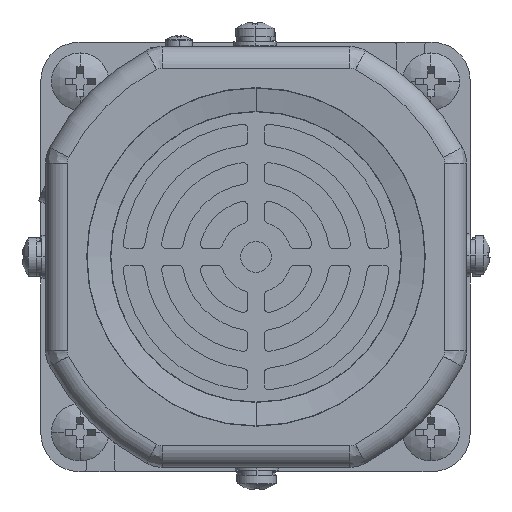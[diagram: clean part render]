
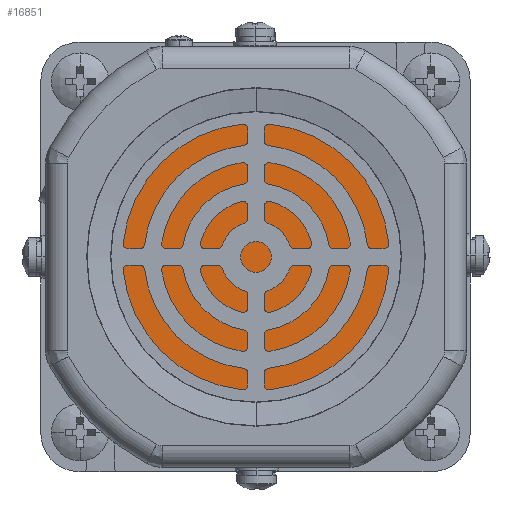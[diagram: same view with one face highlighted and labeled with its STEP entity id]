
A CAD part, left-side view. The second image highlights one B-rep face of the part: STEP entity #16851.
In plain terms, the highlighted planar face has unit normal (-1, 0, 0).
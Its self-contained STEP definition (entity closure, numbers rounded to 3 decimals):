
#1385 = VERTEX_POINT ( 'NONE', #22909 ) ;
#2487 = PLANE ( 'NONE',  #10200 ) ;
#3299 = DIRECTION ( 'NONE',  ( 0., -1., 0. ) ) ;
#7511 = EDGE_CURVE ( 'NONE', #25431, #1385, #27261, .T. ) ;
#8081 = EDGE_CURVE ( 'NONE', #1385, #25431, #36661, .T. ) ;
#10200 = AXIS2_PLACEMENT_3D ( 'NONE', #15057, #27600, #40200 ) ;
#13742 = CARTESIAN_POINT ( 'NONE',  ( 2487.292, -775.254, 0. ) ) ;
#15057 = CARTESIAN_POINT ( 'NONE',  ( 2487.292, -775.254, 0. ) ) ;
#16851 = ADVANCED_FACE ( 'NONE', ( #30696 ), #2487, .F. ) ;
#18949 = CARTESIAN_POINT ( 'NONE',  ( 2487.292, -775.254, 0. ) ) ;
#22909 = CARTESIAN_POINT ( 'NONE',  ( 2487.292, -736.854, 0. ) ) ;
#25431 = VERTEX_POINT ( 'NONE', #25623 ) ;
#25623 = CARTESIAN_POINT ( 'NONE',  ( 2487.292, -813.654, 0. ) ) ;
#26292 = DIRECTION ( 'NONE',  ( -1., 0., 0. ) ) ;
#26609 = AXIS2_PLACEMENT_3D ( 'NONE', #13742, #26292, #38881 ) ;
#27261 = CIRCLE ( 'NONE', #26609, 38.4 ) ;
#27398 = ORIENTED_EDGE ( 'NONE', *, *, #7511, .T. ) ;
#27600 = DIRECTION ( 'NONE',  ( 1., 0., 0. ) ) ;
#27642 = EDGE_LOOP ( 'NONE', ( #27398, #34003 ) ) ;
#30696 = FACE_OUTER_BOUND ( 'NONE', #27642, .T. ) ;
#31507 = DIRECTION ( 'NONE',  ( -1., 0., 0. ) ) ;
#34003 = ORIENTED_EDGE ( 'NONE', *, *, #8081, .T. ) ;
#35334 = AXIS2_PLACEMENT_3D ( 'NONE', #18949, #31507, #3299 ) ;
#36661 = CIRCLE ( 'NONE', #35334, 38.4 ) ;
#38881 = DIRECTION ( 'NONE',  ( 0., -1., 0. ) ) ;
#40200 = DIRECTION ( 'NONE',  ( 0., 1., 0. ) ) ;
